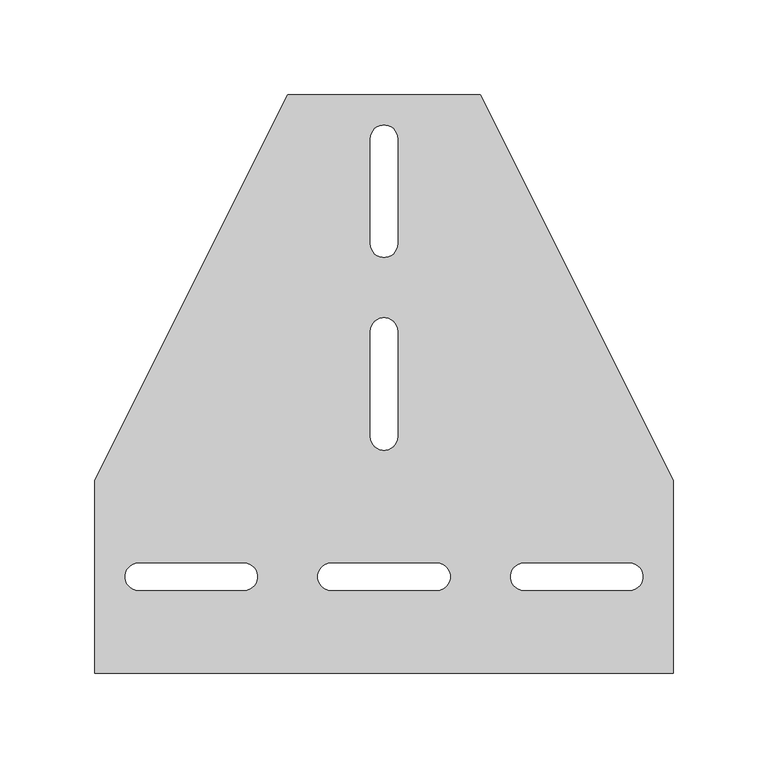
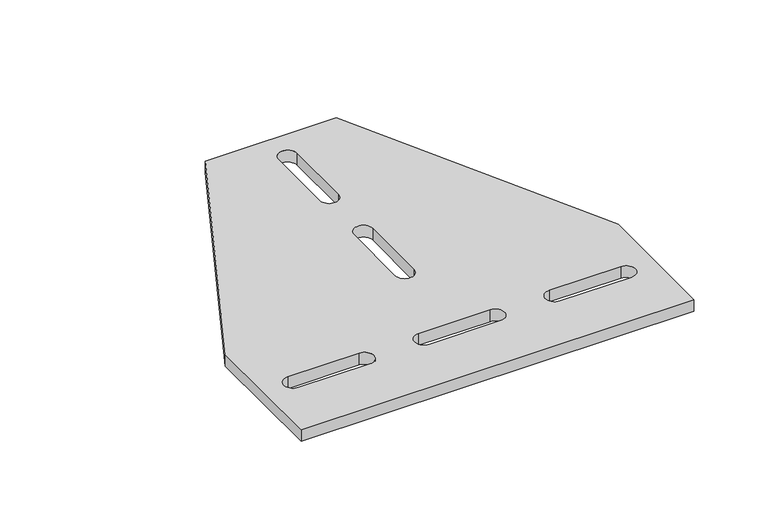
"""IFC4 building model written with IfcOpenShell, lengths in millimetres: proxy geometry, 14NSF-P44 : 14NSF-P44."""

from ifc_helpers import new_model, si_unit, point, frame_2d, origin, origin_with_axes, place, context, project, spatial, polyline, circle_curve, trimmed, segment, composite_curve, outline, extrude, source, transform, mapped, element, save


def generic_models_8d3629b8(model_context):
    return source(origin(), model_context, "Body", "SweptSolid", [
        extrude(outline(polyline([(-152.4, 0.0), (-152.4, 101.6), (-50.8, 304.8), (50.8, 304.8), (152.4, 101.6), (152.4, 0.0), (-152.4, 0.0)]), holes=[composite_curve([segment(trimmed(circle_curve(frame_2d((0.0, 226.21875)), 7.14375), [point((-7.14375, 226.21875))], [point((7.14375, 226.21875))], True, "CARTESIAN"), True, "CONTINUOUS"), segment(polyline([(7.14375, 226.21875), (7.14375, 281.78125)]), True, "CONTINUOUS"), segment(trimmed(circle_curve(frame_2d((0.0, 281.78125)), 7.14375), [point((7.14375, 281.78125))], [point((-7.14375, 281.78125))], True, "CARTESIAN"), True, "CONTINUOUS"), segment(polyline([(-7.14375, 281.78125), (-7.14375, 226.21875)]), True, "CONTINUOUS")], self_intersect=False), composite_curve([segment(trimmed(circle_curve(frame_2d((0.0, 124.61875)), 7.14375), [point((-7.14375, 124.61875))], [point((7.14375, 124.61875))], True, "CARTESIAN"), True, "CONTINUOUS"), segment(polyline([(7.14375, 124.61875), (7.14375, 180.18125)]), True, "CONTINUOUS"), segment(trimmed(circle_curve(frame_2d((0.0, 180.18125)), 7.14375), [point((7.14375, 180.18125))], [point((-7.14375, 180.18125))], True, "CARTESIAN"), True, "CONTINUOUS"), segment(polyline([(-7.14375, 180.18125), (-7.14375, 124.61875)]), True, "CONTINUOUS")], self_intersect=False), composite_curve([segment(polyline([(-73.81875, 57.94375), (-129.3463932, 57.94375)]), True, "CONTINUOUS"), segment(trimmed(circle_curve(frame_2d((-129.3463932, 50.8)), 7.14375), [point((-129.3463932, 57.94375))], [point((-129.3463932, 43.65625))], True, "CARTESIAN"), True, "CONTINUOUS"), segment(polyline([(-129.3463932, 43.65625), (-73.81875, 43.65625)]), True, "CONTINUOUS"), segment(trimmed(circle_curve(frame_2d((-73.81875, 50.8)), 7.14375), [point((-73.81875, 43.65625))], [point((-73.81875, 57.94375))], True, "CARTESIAN"), True, "CONTINUOUS")], self_intersect=False), composite_curve([segment(polyline([(73.81875, 43.65625), (129.38125, 43.65625)]), True, "CONTINUOUS"), segment(trimmed(circle_curve(frame_2d((129.38125, 50.8)), 7.14375), [point((129.38125, 43.65625))], [point((129.38125, 57.94375))], True, "CARTESIAN"), True, "CONTINUOUS"), segment(polyline([(129.38125, 57.94375), (73.81875, 57.94375)]), True, "CONTINUOUS"), segment(trimmed(circle_curve(frame_2d((73.81875, 50.8)), 7.14375), [point((73.81875, 57.94375))], [point((73.81875, 43.65625))], True, "CARTESIAN"), True, "CONTINUOUS")], self_intersect=False), composite_curve([segment(polyline([(27.78125, 57.94375), (-27.78125, 57.94375)]), True, "CONTINUOUS"), segment(trimmed(circle_curve(frame_2d((-27.78125, 50.8)), 7.14375), [point((-27.78125, 57.94375))], [point((-27.78125, 43.65625))], True, "CARTESIAN"), True, "CONTINUOUS"), segment(polyline([(-27.78125, 43.65625), (27.78125, 43.65625)]), True, "CONTINUOUS"), segment(trimmed(circle_curve(frame_2d((27.78125, 50.8)), 7.14375), [point((27.78125, 43.65625))], [point((27.78125, 57.94375))], True, "CARTESIAN"), True, "CONTINUOUS")], self_intersect=False)]), origin_with_axes(), (0.0, 0.0, 1.0), 9.525),
    ])


if __name__ == "__main__":
    model = new_model("IFC4")
    model_context = context("Model", 3, world=origin())
    ifc_project = project(units=[si_unit("LENGTHUNIT", "METRE", prefix="MILLI")], contexts=[model_context])
    site = spatial("IfcSite", under=ifc_project)
    building = spatial("IfcBuilding", under=site)
    placement = place(None, origin())
    generic_models_shape = generic_models_8d3629b8(model_context)
    element("IfcBuildingElementProxy", 1, Name="14NSF-P44 : 14NSF-P44", ObjectType="14NSF-P44 : 14NSF-P44", at=placement, inside=building, context=model_context, shape_type="MappedRepresentation", body=[
        mapped(generic_models_shape, transform((0.0, 0.0, 0.0), x_axis=(1.0, 0.0, 0.0), y_axis=(0.0, 1.0, 0.0), z_axis=(0.0, 0.0, 1.0))),
    ])
    save(model, "model.ifc")
